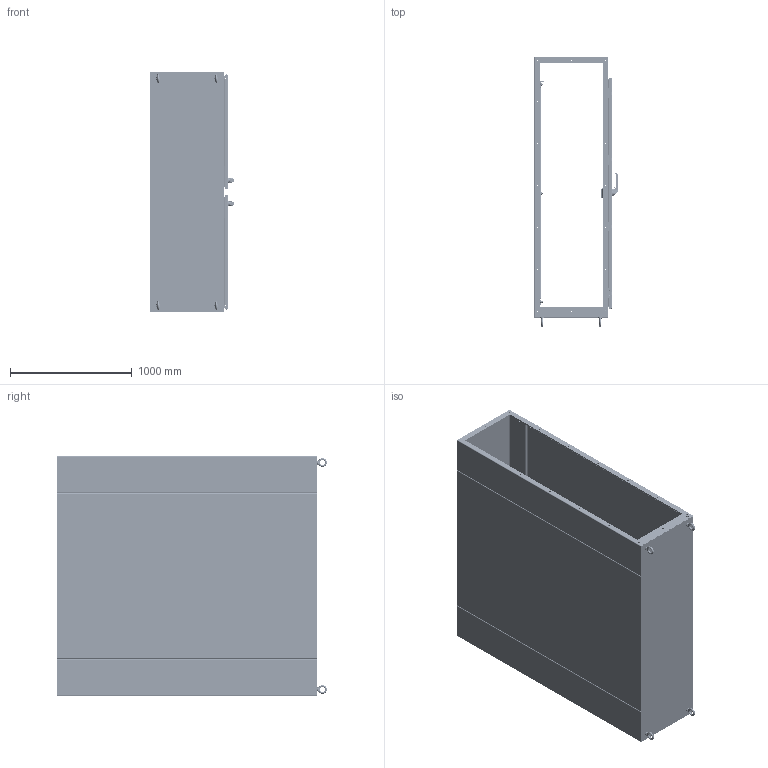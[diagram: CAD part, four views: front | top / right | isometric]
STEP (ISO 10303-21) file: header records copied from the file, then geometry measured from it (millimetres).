
FILE_DESCRIPTION((''),'2;1');
FILE_NAME('MODEL-603_ASM','2021-11-03T13:54:10',('mikek'),('SAGINAW CONTROL & ENGINEERING'),'CREO PARAMETRIC BY PTC INC, 2017260','CREO PARAMETRIC BY PTC INC, 2017260','');
FILE_SCHEMA(('AUTOMOTIVE_DESIGN { 1 0 10303 214 1 1 1 1 }'));
Length unit declared in the file: inch
Products named in the file (122): MODEL-603-MID-R-SD; MODEL-603-MID-TP; MODEL-603-MID-L-SD; MODEL-603-MID-BTM; MODEL-603-MID-BCK; MODEL-603-RH-DR; 100837; 100956_HANDLE; 100956_HANDLE_INSERT; 100956_SHAFT_CAM; 100956_ADAPTER_CAM; 100956_NUT_CAM; 100956_BASE; 100956_O-RING; 100956_WASHER_SEALING; 100956_NUT_MOUNTING_LARGE; 100956_NUT_MOUNTING_SMALL; 100956_SCREW_SMALL; 100956_PADLOCK_CATCH; 100956_STOP_CAM; 100956_ASM; 102236; 100030; 102236_ASM; MODEL-603-ROD-UPR-RHD; 128146; 128145; 128144; 102482; MODEL-603-ROD-UPR-RHD_ASM; 128143; 100882; 112504; MODEL-603-ROD-LWR-RHD; MODEL-603-ROD-LWR-RHD_ASM; MODEL-603-PR-GSKT-RHD; 128257; 126397; 128257_ASM; 126393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
Assembly tree (304 placements, depth 4):
  MODEL-603_ASM
    MODEL-603-MID-R-SD
    MODEL-603-MID-TP
    MODEL-603-MID-L-SD
    MODEL-603-MID-BTM
    MODEL-603-MID-BCK
    MODEL-603-RH-DOOR-ASSY_ASM
      MODEL-603-RH-DR
      100837  x3
      100956_ASM
        100956_HANDLE
        100956_HANDLE_INSERT
        100956_SHAFT_CAM
        100956_ADAPTER_CAM
        100956_NUT_CAM
        100956_BASE
        100956_O-RING
        100956_WASHER_SEALING
        100956_NUT_MOUNTING_LARGE
        100956_NUT_MOUNTING_SMALL
        100956_SCREW_SMALL
        100956_PADLOCK_CATCH
        100956_STOP_CAM
      102236_ASM
        102236
        100030  x2
      MODEL-603-ROD-UPR-RHD_ASM
        MODEL-603-ROD-UPR-RHD
        128146
        128145
        128144
        102482  x2
      128143  x2
      100882  x10
      112504  x2
      MODEL-603-ROD-LWR-RHD_ASM
        MODEL-603-ROD-LWR-RHD
        128146
        128145
        128144
        102482  x2
      MODEL-603-PR-GSKT-RHD
      128257_ASM  x4
        128257
        126397
      126393  x4
      102483  x4
      101369_ASM  x4
        101369
        101369-STUD
      101221  x4
    MODEL-603-LH-DOOR-ASSY_ASM
      MODEL-603-LH-DR
      100837  x3
      100956_ASM
        100956_HANDLE
        100956_HANDLE_INSERT
        100956_SHAFT_CAM
        100956_ADAPTER_CAM
        100956_NUT_CAM
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Bounding box: 686.97 x 2212.64 x 1974.85 mm (x, y, z)
Volume: 53645403.8 mm3; surface area: 34984120 mm2
Topology: 342 solids, 342 shells, 24126 faces, 61593 edges, 38238 vertices
Faces by surface type: plane 8384, cylinder 6693, bspline 4859, torus 1760, cone 1462, sphere 764, extrusion 204
Entity records: 363415 total; most frequent: CARTESIAN_POINT 110056, ORIENTED_EDGE 36664, DIRECTION 35304, EDGE_CURVE 18332, PRESENTATION_STYLE_ASSIGNMENT 17276, STYLED_ITEM 17172, CURVE_STYLE 17070, AXIS2_PLACEMENT_3D 13023
